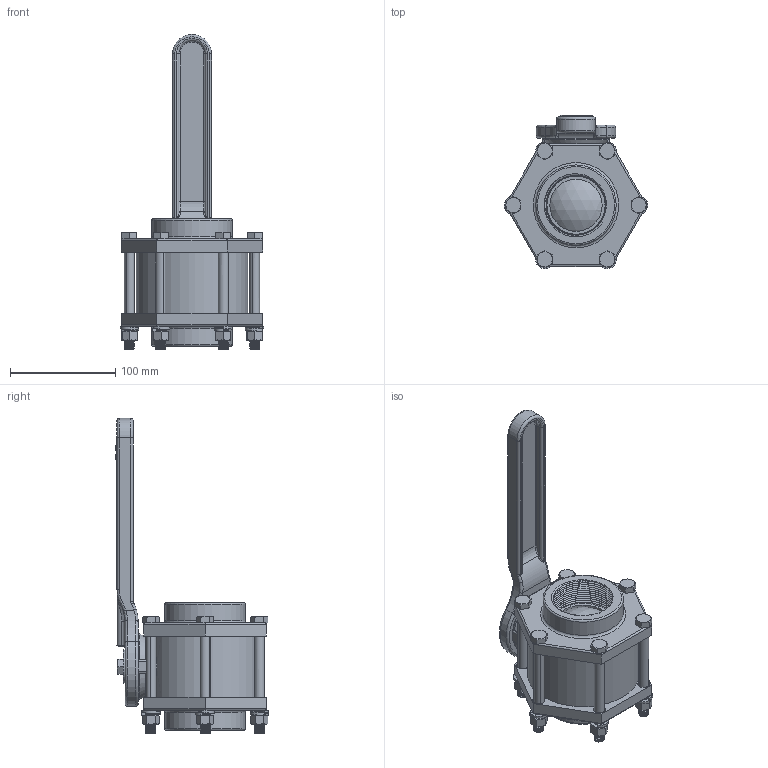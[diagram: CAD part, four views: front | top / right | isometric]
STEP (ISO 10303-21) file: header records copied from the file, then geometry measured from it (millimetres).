
FILE_DESCRIPTION(/* description */ ('Alibre Inc.'),/* implementation_level */ '2;1');
FILE_NAME(/* name */ 'export0',/* time_stamp */ '2016-09-08T11:14:15-04:00',/* author */ (''),/* organization */ (''),/* preprocessor_version */ 'ST-DEVELOPER v14',/* originating_system */ 'Alibre',/* authorisation */ '');
FILE_SCHEMA (('CONFIG_CONTROL_DESIGN'));
Length unit declared in the file: inch
Products named in the file (14): ID_1; ID_2; ID_3; ID_4; ID_5; ID_6; ID_7; ID_8; ID_9; ID_10; ID_11; ID_12
Bounding box: 135.87 x 144.83 x 298.83 mm (x, y, z)
Volume: 845633.3 mm3; surface area: 256450.8 mm2
Topology: 31 solids, 31 shells, 1169 faces, 3063 edges, 1977 vertices
Faces by surface type: cylinder 405, plane 323, cone 239, bspline 145, torus 54, sphere 3
Full cylindrical faces by diameter (mm): 7.798 x1, 10.211 x1, 11.43 x12, 25.4 x1, 31.75 x4, 36.068 x1, 36.322 x1, 49.53 x2, 50.038 x2, 50.419 x1, 52.553 x1, 57.15 x4, 76.2 x2, 79.248 x2, 85.09 x1, 89.916 x2, 95.25 x2, 96.52 x2, 105.41 x3
Entity records: 51422 total; most frequent: CARTESIAN_POINT 36749, ORIENTED_EDGE 2974, DIRECTION 2046, EDGE_CURVE 1487, VERTEX_POINT 991, AXIS2_PLACEMENT_3D 833, FACE_BOUND 698, EDGE_LOOP 696
